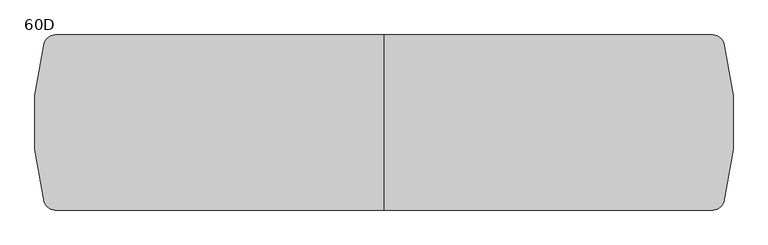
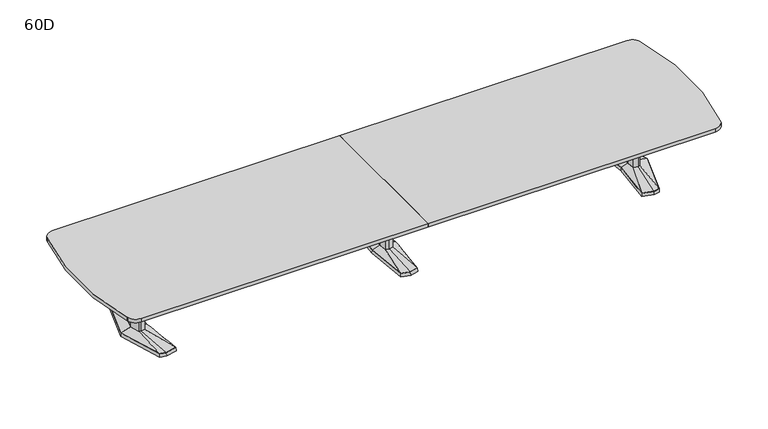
"""IFC4 building model written with IfcOpenShell, lengths in millimetres: furniture geometry, Coalesse_AM_Table_Conference_ETable2_SoftRadiused_20ft_AluminiumBase : 60D."""

import ifcopenshell
import ifcopenshell.guid

model = None  # the IFC model being written
_history = None  # IfcOwnerHistory: only IFC2X3 demands one
_inside = {}  # id of a spatial element -> (the spatial element, [elements in it])
_under = {}  # id of a project, library or spatial element -> (it, [spatial elements below it])
_declared = {}  # id of a project -> (the project, [libraries it declares])
_typed = {}  # id of a type object -> (the type object, [elements of that type])
_made_of = {}  # id of a material, layer set ... -> (it, [elements and type objects made of it])


def new_model(schema):
    """Start an empty IFC model of exactly this schema.

    Asked for "IFC4X3", IfcOpenShell would pick the latest addendum, in which some entities
    have other attributes; the version numbers below select the first issue.
    IFC2X3 requires an IfcOwnerHistory on every rooted entity: one is made here for all.
    """
    global model, _history
    if schema == "IFC4X3":
        model = ifcopenshell.file(schema_version=(4, 3, 0, 0))
    else:
        model = ifcopenshell.file(schema=schema)
    _inside.clear()
    _under.clear()
    _declared.clear()
    _typed.clear()
    _made_of.clear()
    _history = None
    if model.schema == "IFC2X3":
        org = make("IfcOrganization", Name="unknown")
        user = make(
            "IfcPersonAndOrganization",
            ThePerson=make("IfcPerson", FamilyName="unknown"),
            TheOrganization=org,
        )
        app = make(
            "IfcApplication",
            ApplicationDeveloper=org,
            Version="unknown",
            ApplicationFullName="unknown",
            ApplicationIdentifier="unknown",
        )
        _history = make(
            "IfcOwnerHistory",
            OwningUser=user,
            OwningApplication=app,
            ChangeAction="ADDED",
            CreationDate=0,
        )
    return model


def make(cls, **values):
    """One entity of the class cls with the attributes given. An attribute that is None is left unset."""
    return model.create_entity(
        cls, **{name: value for name, value in values.items() if value is not None}
    )


def rooted(cls, **values):
    """An entity with a GlobalId (a new one), such as an element, a storey or a relation."""
    return make(cls, GlobalId=ifcopenshell.guid.new(), OwnerHistory=_history, **values)


def si_unit(unit_type, name, prefix=None):
    """IfcSIUnit, for example si_unit("LENGTHUNIT", "METRE", prefix="MILLI")."""
    return make("IfcSIUnit", UnitType=unit_type, Prefix=prefix, Name=name)


def assignment(units):
    """IfcUnitAssignment: the units of a project."""
    return None if units is None else make("IfcUnitAssignment", Units=units)


def point(xyz):
    """IfcCartesianPoint."""
    return None if xyz is None else make("IfcCartesianPoint", Coordinates=xyz)


def direction(xyz):
    """IfcDirection."""
    return None if xyz is None else make("IfcDirection", DirectionRatios=xyz)


def frame(location, z_axis=None, x_axis=None):
    """IfcAxis2Placement3D, a coordinate frame: its origin and axes. An axis left out is left unset."""
    return make(
        "IfcAxis2Placement3D",
        Location=point(location),
        Axis=direction(z_axis),
        RefDirection=direction(x_axis),
    )


def frame_2d(location, x_axis=None):
    """IfcAxis2Placement2D, a coordinate frame in the plane: its origin and x axis."""
    return make(
        "IfcAxis2Placement2D", Location=point(location), RefDirection=direction(x_axis)
    )


def origin():
    """The frame at (0, 0, 0) with its axes left unset."""
    return frame((0.0, 0.0, 0.0))


def place(relative_to, where):
    """IfcLocalPlacement: puts the frame where relative to a parent placement (None: the world)."""
    return make(
        "IfcLocalPlacement", PlacementRelTo=relative_to, RelativePlacement=where
    )


def context(
    kind, dimensions, precision=None, world=None, true_north=None, identifier=None
):
    """IfcGeometricRepresentationContext, for example the 3D "Model" context."""
    return make(
        "IfcGeometricRepresentationContext",
        ContextIdentifier=identifier,
        ContextType=kind,
        CoordinateSpaceDimension=dimensions,
        Precision=precision,
        WorldCoordinateSystem=world,
        TrueNorth=true_north,
    )


def project(units=None, contexts=None):
    """IfcProject with its units and contexts."""
    return rooted(
        "IfcProject",
        Name="project",
        RepresentationContexts=contexts,
        UnitsInContext=assignment(units),
    )


def spatial(cls, under=None, at=None, **own):
    """A site, building, storey or space (cls), placed at a placement, below another one or the project."""
    s = rooted(cls, ObjectPlacement=at, **own)
    if under is not None:
        _under.setdefault(under.id(), (under, []))[1].append(s)
    return s


def polyline(points):
    """IfcPolyline through the points."""
    return make("IfcPolyline", Points=[point(p) for p in points])


def circle_curve(where, radius):
    """IfcCircle in the frame where."""
    return make("IfcCircle", Position=where, Radius=radius)


def trimmed(basis, trim1, trim2, sense, master):
    """IfcTrimmedCurve: the piece of a basis curve between two trims."""
    return make(
        "IfcTrimmedCurve",
        BasisCurve=basis,
        Trim1=trim1,
        Trim2=trim2,
        SenseAgreement=sense,
        MasterRepresentation=master,
    )


def segment(curve, same_sense, transition):
    """IfcCompositeCurveSegment."""
    return make(
        "IfcCompositeCurveSegment",
        Transition=transition,
        SameSense=same_sense,
        ParentCurve=curve,
    )


def composite_curve(segments, self_intersect=None):
    """IfcCompositeCurve: segments joined end to end."""
    return make("IfcCompositeCurve", Segments=segments, SelfIntersect=self_intersect)


def outline(outer, holes=None, kind="AREA"):
    """IfcArbitraryClosedProfileDef: a profile drawn as a closed curve; with holes, ...WithVoids."""
    if holes is None:
        return make("IfcArbitraryClosedProfileDef", ProfileType=kind, OuterCurve=outer)
    return make(
        "IfcArbitraryProfileDefWithVoids",
        ProfileType=kind,
        OuterCurve=outer,
        InnerCurves=holes,
    )


def extrude(swept, where, along, depth):
    """IfcExtrudedAreaSolid: the profile swept, set in the frame where, extruded along a direction by depth."""
    return make(
        "IfcExtrudedAreaSolid",
        SweptArea=swept,
        Position=where,
        ExtrudedDirection=direction(along),
        Depth=depth,
    )


def faces_of(points, faces, orient=None, outer=None):
    """IfcFace entities. A face is a list of loops; a loop is a list of indices into points, from 0.

    orient and outer hold one flag for each loop. By default every Orientation is true, the
    first loop of a face is its IfcFaceOuterBound and the others are IfcFaceBound.
    """
    made = []
    for i, loops in enumerate(faces):
        bounds = []
        for j, loop in enumerate(loops):
            is_outer = j == 0 if outer is None else outer[i][j]
            bounds.append(
                make(
                    "IfcFaceOuterBound" if is_outer else "IfcFaceBound",
                    Bound=make("IfcPolyLoop", Polygon=[points[k] for k in loop]),
                    Orientation=True if orient is None else orient[i][j],
                )
            )
        made.append(make("IfcFace", Bounds=bounds))
    return made


def faceted_brep(points, faces, orient=None, outer=None, voids=None):
    """IfcFacetedBrep: a solid bounded by flat faces; with voids (closed shells), ...WithVoids."""
    shared = [point(p) for p in points]
    hull = make("IfcClosedShell", CfsFaces=faces_of(shared, faces, orient, outer))
    if voids is None:
        return make("IfcFacetedBrep", Outer=hull)
    return make(
        "IfcFacetedBrepWithVoids",
        Outer=hull,
        Voids=[
            make(cls, CfsFaces=faces_of(shared, fs, o, b)) for cls, fs, o, b in voids
        ],
    )


def shape(context_of_items, identifier, shape_type, items):
    """IfcShapeRepresentation: the items that make up one representation, for example the "Body"."""
    return make(
        "IfcShapeRepresentation",
        ContextOfItems=context_of_items,
        RepresentationIdentifier=identifier,
        RepresentationType=shape_type,
        Items=items,
    )


def source(mapping_origin, context_of_items, identifier, shape_type, items):
    """IfcRepresentationMap: a shape defined once, which mapped items show again and again."""
    return make(
        "IfcRepresentationMap",
        MappingOrigin=mapping_origin,
        MappedRepresentation=shape(context_of_items, identifier, shape_type, items),
    )


def transform(
    local_origin,
    x_axis=None,
    y_axis=None,
    z_axis=None,
    scale=None,
    scale2=None,
    scale3=None,
    uniform=True,
):
    """IfcCartesianTransformationOperator3D, or its non-uniform kind. x_axis, y_axis, z_axis: its Axis1, 2, 3."""
    if uniform:
        return make(
            "IfcCartesianTransformationOperator3D",
            Axis1=direction(x_axis),
            Axis2=direction(y_axis),
            LocalOrigin=point(local_origin),
            Scale=scale,
            Axis3=direction(z_axis),
        )
    return make(
        "IfcCartesianTransformationOperator3DnonUniform",
        Axis1=direction(x_axis),
        Axis2=direction(y_axis),
        LocalOrigin=point(local_origin),
        Scale=scale,
        Axis3=direction(z_axis),
        Scale2=scale2,
        Scale3=scale3,
    )


def mapped(mapping_source, mapping_target):
    """IfcMappedItem: shows the shape of a source again, moved by a transform."""
    return make(
        "IfcMappedItem", MappingSource=mapping_source, MappingTarget=mapping_target
    )


def made_of(thing, what):
    """Note that an element or type object is made of a material, layer set ...; save() writes the relation."""
    if what is not None:
        _made_of.setdefault(what.id(), (what, []))[1].append(thing)
    return thing


def element(
    cls,
    number,
    at=None,
    inside=None,
    cuts=None,
    type_object=None,
    material=None,
    context=None,
    identifier="Body",
    shape_type=None,
    held_by="IfcProductDefinitionShape",
    body=None,
    shapes=None,
    **own,
):
    """One element of the class cls, such as IfcWall. Its Tag is "e" and its number.

    at: its placement. inside: the storey or other place that contains it. cuts: it is an
    opening in that element (IfcRelVoidsElement). A single representation is given by context,
    identifier, shape_type and body (its items); several are given by shapes. held_by: the class
    of the entity that holds the representations. save() writes the other relations.
    """
    e = rooted(cls, Tag="e%d" % number, ObjectPlacement=at, **own)
    if body is not None:
        shapes = [shape(context, identifier, shape_type, body)]
    if shapes is not None:
        e.Representation = make(held_by, Representations=shapes)
    if inside is not None:
        _inside.setdefault(inside.id(), (inside, []))[1].append(e)
    if cuts is not None:
        rooted(
            "IfcRelVoidsElement", RelatingBuildingElement=cuts, RelatedOpeningElement=e
        )
    if type_object is not None:
        _typed.setdefault(type_object.id(), (type_object, []))[1].append(e)
    return made_of(e, material)


def aggregate(whole, parts):
    """IfcRelAggregates: a whole, such as a stair, and the parts it consists of."""
    return rooted("IfcRelAggregates", RelatingObject=whole, RelatedObjects=parts)


def save(model, path):
    """Write the relations noted so far, then the file.

    IfcRelAggregates (storeys below a building ...), IfcRelContainedInSpatialStructure (elements
    in a storey), IfcRelDefinesByType, IfcRelAssociatesMaterial and IfcRelDeclares: one each for
    every whole, place, type object, material and project.
    """
    for whole, parts in _under.values():
        aggregate(whole, parts)
    for where, things in _inside.values():
        rooted(
            "IfcRelContainedInSpatialStructure",
            RelatedElements=things,
            RelatingStructure=where,
        )
    for kind, things in _typed.values():
        rooted("IfcRelDefinesByType", RelatedObjects=things, RelatingType=kind)
    for what, things in _made_of.values():
        rooted("IfcRelAssociatesMaterial", RelatedObjects=things, RelatingMaterial=what)
    for by, libraries in _declared.values():
        rooted("IfcRelDeclares", RelatingContext=by, RelatedDefinitions=libraries)
    model.write(path)


def plane_surface(at):
    """IfcPlane: the flat surface through the origin of the frame at, square to its z axis."""
    return make("IfcPlane", Position=at)


def spline_surface(u_degree, v_degree, points, u_multiplicities, v_multiplicities, u_knots, v_knots, weights=None):
    """IfcBSplineSurfaceWithKnots; with weights, IfcRationalBSplineSurfaceWithKnots. points: one row for each step in u."""
    own = dict(
        UDegree=u_degree,
        VDegree=v_degree,
        ControlPointsList=[[point(p) for p in row] for row in points],
        SurfaceForm="UNSPECIFIED",
        UClosed=False,
        VClosed=False,
        SelfIntersect=False,
        UMultiplicities=u_multiplicities,
        VMultiplicities=v_multiplicities,
        UKnots=u_knots,
        VKnots=v_knots,
        KnotSpec="UNSPECIFIED",
    )
    if weights is None:
        return make("IfcBSplineSurfaceWithKnots", **own)
    return make("IfcRationalBSplineSurfaceWithKnots", WeightsData=weights, **own)


def advanced_brep(points, edges, surfaces, faces):
    """IfcAdvancedBrep: a solid bounded by faces that lie on surfaces and meet in shared edges.

    An edge is (start, end): straight between two places in points (the first is 0);
    or (start, end, curve); or (start, end, curve, False) where it runs against its curve.
    A face is (place in surfaces, loops), or (place, loops, False) where it looks against
    its surface's normal. A loop lists edges by number (the first is 1), with a minus sign
    where the edge is run from its end to its start. The first loop is the outer one.
    """
    corners = [point(p) for p in points]
    vertices = [make("IfcVertexPoint", VertexGeometry=c) for c in corners]
    made = []
    for start, end, *more in edges:
        made.append(
            make(
                "IfcEdgeCurve",
                EdgeStart=vertices[start],
                EdgeEnd=vertices[end],
                EdgeGeometry=more[0] if more else make("IfcPolyline", Points=[corners[start], corners[end]]),
                SameSense=more[1] if len(more) > 1 else True,
            )
        )
    hull = []
    for where, loops, *sense in faces:
        bounds = []
        for j, loop in enumerate(loops):
            ring = [make("IfcOrientedEdge", EdgeElement=made[abs(k) - 1], Orientation=k > 0) for k in loop]
            bounds.append(
                make(
                    "IfcFaceOuterBound" if j == 0 else "IfcFaceBound",
                    Bound=make("IfcEdgeLoop", EdgeList=ring),
                    Orientation=True,
                )
            )
        hull.append(make("IfcAdvancedFace", Bounds=bounds, FaceSurface=surfaces[where], SameSense=sense[0] if sense else True))
    return make("IfcAdvancedBrep", Outer=make("IfcClosedShell", CfsFaces=hull))


def furniture_60d_c19a4f9d(model_context):
    return source(origin(), model_context, "Body", "SolidModel", [
        faceted_brep([(-81.2333791, -433.8053819, 38.1), (0.0, -455.556576, 38.1), (81.2333791, -433.8053819, 38.1), (119.0564774, 0.0, 38.1), (81.2333791, 433.8053819, 38.1), (0.0, 455.556576, 38.1), (-81.2333791, 433.8053819, 38.1), (-119.0564774, 0.0, 38.1), (-82.7182795, -435.0512063, 3.175), (-120.65, 0.0, 3.175), (-82.7182795, 435.0512063, 3.175), (0.0, 457.2, 3.175), (82.7182795, 435.0512063, 3.175), (120.65, 0.0, 3.175), (82.7182795, -435.0512063, 3.175), (0.0, -457.2, 3.175), (0.0, 429.2617927, 3.175), (-77.9676806, 408.3850278, 3.175), (-74.7019821, 382.9646737, 3.175), (0.0, 402.9670094, 3.175), (74.7019821, 382.9646737, 3.175), (77.9676806, 408.3850278, 3.175), (0.0, -429.2617927, 3.175), (77.9676806, -408.3850278, 3.175), (74.7019821, -382.9646737, 3.175), (0.0, -402.9670094, 3.175), (-74.7019821, -382.9646737, 3.175), (-77.9676806, -408.3850278, 3.175), (-71.8574262, 114.6326257, 3.175), (-82.5426076, 0.0, 3.175), (-71.8574262, -114.6326257, 3.175), (0.0, -133.8761372, 3.175), (71.8574262, -114.6326257, 3.175), (82.5426076, 0.0, 3.175), (71.8574262, 114.6326257, 3.175), (0.0, 133.8761372, 3.175), (0.0, 429.2617927, 0.0), (77.9676806, 408.3850278, 0.0), (74.7019821, 382.9646737, 0.0), (0.0, 402.9670094, 0.0), (-74.7019821, 382.9646737, 0.0), (-77.9676806, 408.3850278, 0.0), (0.0, -429.2617927, 0.0), (-77.9676806, -408.3850278, 0.0), (-74.7019821, -382.9646737, 0.0), (0.0, -402.9670094, 0.0), (74.7019821, -382.9646737, 0.0), (77.9676806, -408.3850278, 0.0), (-71.8574262, 114.6326257, 0.0), (0.0, 133.8761372, 0.0), (71.8574262, 114.6326257, 0.0), (82.5426076, 0.0, 0.0), (71.8574262, -114.6326257, 0.0), (0.0, -133.8761372, 0.0), (-71.8574262, -114.6326257, 0.0), (-82.5426076, 0.0, 0.0)], [[[0, 1, 2, 3, 4, 5, 6, 7]], [[8, 9, 10, 11, 12, 13, 14, 15], [16, 17, 18, 19, 20, 21], [22, 23, 24, 25, 26, 27], [28, 29, 30, 31, 32, 33, 34, 35]], [[1, 0, 8, 15]], [[2, 1, 15, 14]], [[3, 2, 14, 13]], [[4, 3, 13, 12]], [[5, 4, 12, 11]], [[6, 5, 11, 10]], [[7, 6, 10, 9]], [[0, 7, 9, 8]], [[36, 37, 38, 39, 40, 41]], [[42, 43, 44, 45, 46, 47]], [[48, 49, 50, 51, 52, 53, 54, 55]], [[36, 41, 17, 16]], [[41, 40, 18, 17]], [[40, 39, 19, 18]], [[39, 38, 20, 19]], [[38, 37, 21, 20]], [[37, 36, 16, 21]], [[42, 47, 23, 22]], [[47, 46, 24, 23]], [[46, 45, 25, 24]], [[45, 44, 26, 25]], [[44, 43, 27, 26]], [[43, 42, 22, 27]], [[48, 55, 29, 28]], [[55, 54, 30, 29]], [[54, 53, 31, 30]], [[53, 52, 32, 31]], [[52, 51, 33, 32]], [[51, 50, 34, 33]], [[50, 49, 35, 34]], [[49, 48, 28, 35]]]),
        faceted_brep([(-36.3832834, 84.6900825, 698.5), (-44.2774487, 0.0, 698.5), (-36.3832834, -84.6900825, 698.5), (0.0, -94.4335728, 698.5), (36.3832834, -84.6900825, 698.5), (44.2774487, 0.0, 698.5), (36.3832834, 84.6900825, 698.5), (0.0, 94.4335728, 698.5), (-36.3832834, 84.6900825, 63.5), (0.0, 94.4335728, 63.5), (36.3832834, 84.6900825, 63.5), (44.2774487, 0.0, 63.5), (36.3832834, -84.6900825, 63.5), (0.0, -94.4335728, 63.5), (-36.3832834, -84.6900825, 63.5), (-44.2774487, 0.0, 63.5)], [[[0, 1, 2, 3, 4, 5, 6, 7]], [[8, 9, 10, 11, 12, 13, 14, 15]], [[1, 0, 8, 15]], [[2, 1, 15, 14]], [[3, 2, 14, 13]], [[4, 3, 13, 12]], [[5, 4, 12, 11]], [[6, 5, 11, 10]], [[7, 6, 10, 9]], [[0, 7, 9, 8]]]),
        advanced_brep(
        [(-36.3832834, 84.6900825, 63.5), (-44.2774487, 0.0, 63.5), (-36.3832834, -84.6900825, 63.5), (0.0, -94.4335728, 63.5), (36.3832834, -84.6900825, 63.5), (44.2774487, 0.0, 63.5), (36.3832834, 84.6900825, 63.5), (0.0, 94.4335728, 63.5), (-81.2333791, 433.8053819, 38.1), (0.0, 455.556576, 38.1), (81.2333791, 433.8053819, 38.1), (119.0564774, 0.0, 38.1), (81.2333791, -433.8053819, 38.1), (0.0, -455.556576, 38.1), (-81.2333791, -433.8053819, 38.1), (-119.0564774, 0.0, 38.1)],
        [
            (0, 1),
            (1, 2),
            (2, 3),
            (3, 4),
            (4, 5),
            (5, 6),
            (6, 7),
            (7, 0),
            (8, 9),
            (9, 10),
            (10, 11),
            (11, 12),
            (12, 13),
            (13, 14),
            (14, 15),
            (15, 8),
            (15, 1),
            (0, 8),
            (14, 2),
            (13, 3),
            (12, 4),
            (11, 5),
            (10, 6),
            (9, 7),
        ],
        [
            plane_surface(frame((0.0, 0.0, 63.5), z_axis=(0.0, 0.0, 1.0000000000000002), x_axis=(-0.9659615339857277, -0.25868574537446, 0.0))),
            plane_surface(frame((0.0, 0.0, 38.1), z_axis=(0.0, 0.0, -1.0000000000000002), x_axis=(-0.9659615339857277, -0.25868574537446, 0.0))),
            spline_surface(1, 1, [[(-81.2333791, 433.8053819, 38.1), (-36.3832834, 84.6900825, 63.5)], [(-119.0564774, 0.0, 38.1), (-44.2774487, 0.0, 63.5)]], [2, 2], [2, 2], [0.0, 1.0], [0.0, 1.0]),
            spline_surface(1, 1, [[(-119.0564774, 0.0, 38.1), (-44.2774487, 0.0, 63.5)], [(-81.2333791, -433.8053819, 38.1), (-36.3832834, -84.6900825, 63.5)]], [2, 2], [2, 2], [0.0, 1.0], [0.0, 1.0]),
            spline_surface(1, 1, [[(-81.2333791, -433.8053819, 38.1), (-36.3832834, -84.6900825, 63.5)], [(0.0, -455.556576, 38.1), (0.0, -94.4335728, 63.5)]], [2, 2], [2, 2], [0.0, 1.0], [0.0, 1.0]),
            spline_surface(1, 1, [[(0.0, -455.556576, 38.1), (0.0, -94.4335728, 63.5)], [(81.2333791, -433.8053819, 38.1), (36.3832834, -84.6900825, 63.5)]], [2, 2], [2, 2], [0.0, 1.0], [0.0, 1.0]),
            spline_surface(1, 1, [[(81.2333791, -433.8053819, 38.1), (36.3832834, -84.6900825, 63.5)], [(119.0564774, 0.0, 38.1), (44.2774487, 0.0, 63.5)]], [2, 2], [2, 2], [0.0, 1.0], [0.0, 1.0]),
            spline_surface(1, 1, [[(119.0564774, 0.0, 38.1), (44.2774487, 0.0, 63.5)], [(81.2333791, 433.8053819, 38.1), (36.3832834, 84.6900825, 63.5)]], [2, 2], [2, 2], [0.0, 1.0], [0.0, 1.0]),
            spline_surface(1, 1, [[(81.2333791, 433.8053819, 38.1), (36.3832834, 84.6900825, 63.5)], [(0.0, 455.556576, 38.1), (0.0, 94.4335728, 63.5)]], [2, 2], [2, 2], [0.0, 1.0], [0.0, 1.0]),
            spline_surface(1, 1, [[(0.0, 455.556576, 38.1), (0.0, 94.4335728, 63.5)], [(-81.2333791, 433.8053819, 38.1), (-36.3832834, 84.6900825, 63.5)]], [2, 2], [2, 2], [0.0, 1.0], [0.0, 1.0]),
        ],
        [
            (0, [[1, 2, 3, 4, 5, 6, 7, 8]]),
            (1, [[9, 10, 11, 12, 13, 14, 15, 16]]),
            (2, [[-16, 17, -1, 18]]),
            (3, [[-15, 19, -2, -17]]),
            (4, [[-14, 20, -3, -19]]),
            (5, [[-13, 21, -4, -20]]),
            (6, [[-12, 22, -5, -21]]),
            (7, [[-11, 23, -6, -22]]),
            (8, [[-10, 24, -7, -23]]),
            (9, [[-9, -18, -8, -24]]),
        ],
    ),
        faceted_brep([(2429.8306835, 455.5848221, 38.1), (2320.2531277, 426.2263816, 38.1), (2361.4163717, 0.0, 38.1), (2320.2531277, -426.2263816, 38.1), (2429.8306835, -455.5848221, 38.1), (2485.9570396, -440.5478297, 38.1), (2623.2684269, 0.0, 38.1), (2485.9570396, 440.5478297, 38.1), (2429.8306754, 457.2283104, 3.175), (2487.2124472, 441.8549756, 3.175), (2624.93125, 0.0, 3.175), (2487.2124472, -441.8549756, 3.175), (2429.8306754, -457.2283104, 3.175), (2318.54375, -427.4118891, 3.175), (2359.8214856, 0.0, 3.175), (2318.54375, 427.4118891, 3.175), (2433.420115, 428.3273875, 3.175), (2328.3718228, 402.1057253, 3.175), (2336.490518, 377.985069, 3.175), (2437.0095466, 401.0699529, 3.175), (2487.5691725, 387.524361, 3.175), (2486.7631061, 414.0360954, 3.175), (2433.420115, -428.3273875, 3.175), (2486.7631061, -414.0360954, 3.175), (2487.5691725, -387.524361, 3.175), (2437.0095466, -401.0699529, 3.175), (2336.490518, -377.985069, 3.175), (2328.3718228, -402.1057253, 3.175), (2560.0153621, 0.0, 3.175), (2527.7459611, 120.4193755, 3.175), (2479.0987222, 133.471665, 3.175), (2399.2180526, 119.4176561, 3.175), (2388.0868466, 0.0, 3.175), (2399.2180526, -119.4176561, 3.175), (2479.0987222, -133.471665, 3.175), (2527.7459611, -120.4193755, 3.175), (2433.420115, 428.3273875, 0.0), (2486.7631061, 414.0360954, 0.0), (2487.5691725, 387.524361, 0.0), (2437.0095466, 401.0699529, 0.0), (2336.490518, 377.985069, 0.0), (2328.3718228, 402.1057253, 0.0), (2433.420115, -428.3273875, 0.0), (2328.3718228, -402.1057253, 0.0), (2336.490518, -377.985069, 0.0), (2437.0095466, -401.0699529, 0.0), (2487.5691725, -387.524361, 0.0), (2486.7631061, -414.0360954, 0.0), (2560.0153621, 0.0, 0.0), (2527.7459611, -120.4193755, 0.0), (2479.0987222, -133.471665, 0.0), (2399.2180526, -119.4176561, 0.0), (2388.0868466, 0.0, 0.0), (2399.2180526, 119.4176561, 0.0), (2479.0987222, 133.471665, 0.0), (2527.7459611, 120.4193755, 0.0)], [[[0, 1, 2, 3, 4, 5, 6, 7]], [[8, 9, 10, 11, 12, 13, 14, 15], [16, 17, 18, 19, 20, 21], [22, 23, 24, 25, 26, 27], [28, 29, 30, 31, 32, 33, 34, 35]], [[7, 9, 8, 0]], [[6, 10, 9, 7]], [[5, 11, 10, 6]], [[4, 12, 11, 5]], [[3, 13, 12, 4]], [[2, 14, 13, 3]], [[1, 15, 14, 2]], [[0, 8, 15, 1]], [[36, 37, 38, 39, 40, 41]], [[42, 43, 44, 45, 46, 47]], [[48, 49, 50, 51, 52, 53, 54, 55]], [[36, 16, 21, 37]], [[37, 21, 20, 38]], [[38, 20, 19, 39]], [[39, 19, 18, 40]], [[40, 18, 17, 41]], [[41, 17, 16, 36]], [[42, 22, 27, 43]], [[43, 27, 26, 44]], [[44, 26, 25, 45]], [[45, 25, 24, 46]], [[46, 24, 23, 47]], [[47, 23, 22, 42]], [[48, 28, 35, 49]], [[49, 35, 34, 50]], [[50, 34, 33, 51]], [[51, 33, 32, 52]], [[52, 32, 31, 53]], [[53, 31, 30, 54]], [[54, 30, 29, 55]], [[55, 29, 28, 48]]]),
        faceted_brep([(2520.5710836, 0.0, 698.5), (2496.6358546, 89.3188359, 698.5), (2479.7824984, 93.8406728, 698.5), (2477.3826511, 94.4845635, 698.5), (2434.455146, 86.9320037, 698.5), (2426.3520056, 0.0, 698.5), (2434.455146, -86.9320037, 698.5), (2477.3826511, -94.4845635, 698.5), (2479.7824984, -93.8406728, 698.5), (2496.6358546, -89.3188359, 698.5), (2520.5710836, 0.0, 63.5), (2496.6358546, -89.3188359, 63.5), (2479.7824984, -93.8406728, 63.5), (2477.3826511, -94.4845635, 63.5), (2434.455146, -86.9320037, 63.5), (2426.3520056, 0.0, 63.5), (2434.455146, 86.9320037, 63.5), (2477.3826511, 94.4845635, 63.5), (2479.7824984, 93.8406728, 63.5), (2496.6358546, 89.3188359, 63.5)], [[[0, 1, 2, 3, 4, 5, 6, 7, 8, 9]], [[10, 11, 12, 13, 14, 15, 16, 17, 18, 19]], [[9, 11, 10, 0]], [[8, 12, 11, 9]], [[7, 13, 12, 8]], [[6, 14, 13, 7]], [[5, 15, 14, 6]], [[4, 16, 15, 5]], [[3, 17, 16, 4]], [[2, 18, 17, 3]], [[1, 19, 18, 2]], [[0, 10, 19, 1]]]),
        advanced_brep(
        [(2477.3826511, 94.4845635, 63.5), (2434.455146, 86.9320037, 63.5), (2426.3520056, 0.0, 63.5), (2434.455146, -86.9320037, 63.5), (2477.3826511, -94.4845635, 63.5), (2496.6358546, -89.3188359, 63.5), (2520.5710836, 0.0, 63.5), (2496.6358546, 89.3188359, 63.5), (2429.8306835, 455.5848221, 38.1), (2485.9570396, 440.5478297, 38.1), (2623.2684269, 0.0, 38.1), (2485.9570396, -440.5478297, 38.1), (2429.8306835, -455.5848221, 38.1), (2320.2531277, -426.2263816, 38.1), (2361.4163717, 0.0, 38.1), (2320.2531277, 426.2263816, 38.1)],
        [
            (0, 1),
            (1, 2),
            (2, 3),
            (3, 4),
            (4, 5),
            (5, 6),
            (6, 7),
            (7, 0),
            (8, 9),
            (9, 10),
            (10, 11),
            (11, 12),
            (12, 13),
            (13, 14),
            (14, 15),
            (15, 8),
            (8, 0),
            (7, 9),
            (6, 10),
            (5, 11),
            (4, 12),
            (3, 13),
            (2, 14),
            (1, 15),
        ],
        [
            plane_surface(frame((2470.4837991, 0.0, 63.5), z_axis=(0.0, 0.0, 1.0), x_axis=(-0.25884244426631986, -0.9659195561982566, 0.0))),
            plane_surface(frame((2432.0958125, 0.0, 38.1), z_axis=(0.0, 0.0, -1.0), x_axis=(-0.25884244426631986, -0.9659195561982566, 0.0))),
            spline_surface(1, 1, [[(2429.8306835, 455.5848221, 38.1), (2485.9570396, 440.5478297, 38.1)], [(2477.3826511, 94.4845635, 63.5), (2496.6358546, 89.3188359, 63.5)]], [2, 2], [2, 2], [0.0, 1.0], [0.0, 1.0]),
            spline_surface(1, 1, [[(2485.9570396, 440.5478297, 38.1), (2623.2684269, 0.0, 38.1)], [(2496.6358546, 89.3188359, 63.5), (2520.5710836, 0.0, 63.5)]], [2, 2], [2, 2], [0.0, 1.0], [0.0, 1.0]),
            spline_surface(1, 1, [[(2623.2684269, 0.0, 38.1), (2485.9570396, -440.5478297, 38.1)], [(2520.5710836, 0.0, 63.5), (2496.6358546, -89.3188359, 63.5)]], [2, 2], [2, 2], [0.0, 1.0], [0.0, 1.0]),
            spline_surface(1, 1, [[(2485.9570396, -440.5478297, 38.1), (2429.8306835, -455.5848221, 38.1)], [(2496.6358546, -89.3188359, 63.5), (2477.3826511, -94.4845635, 63.5)]], [2, 2], [2, 2], [0.0, 1.0], [0.0, 1.0]),
            spline_surface(1, 1, [[(2429.8306835, -455.5848221, 38.1), (2320.2531277, -426.2263816, 38.1)], [(2477.3826511, -94.4845635, 63.5), (2434.455146, -86.9320037, 63.5)]], [2, 2], [2, 2], [0.0, 1.0], [0.0, 1.0]),
            spline_surface(1, 1, [[(2320.2531277, -426.2263816, 38.1), (2361.4163717, 0.0, 38.1)], [(2434.455146, -86.9320037, 63.5), (2426.3520056, 0.0, 63.5)]], [2, 2], [2, 2], [0.0, 1.0], [0.0, 1.0]),
            spline_surface(1, 1, [[(2361.4163717, 0.0, 38.1), (2320.2531277, 426.2263816, 38.1)], [(2426.3520056, 0.0, 63.5), (2434.455146, 86.9320037, 63.5)]], [2, 2], [2, 2], [0.0, 1.0], [0.0, 1.0]),
            spline_surface(1, 1, [[(2320.2531277, 426.2263816, 38.1), (2429.8306835, 455.5848221, 38.1)], [(2434.455146, 86.9320037, 63.5), (2477.3826511, 94.4845635, 63.5)]], [2, 2], [2, 2], [0.0, 1.0], [0.0, 1.0]),
        ],
        [
            (0, [[1, 2, 3, 4, 5, 6, 7, 8]]),
            (1, [[9, 10, 11, 12, 13, 14, 15, 16]]),
            (2, [[17, -8, 18, -9]]),
            (3, [[-18, -7, 19, -10]]),
            (4, [[-19, -6, 20, -11]]),
            (5, [[-20, -5, 21, -12]]),
            (6, [[-21, -4, 22, -13]]),
            (7, [[-22, -3, 23, -14]]),
            (8, [[-23, -2, 24, -15]]),
            (9, [[-24, -1, -17, -16]]),
        ],
    ),
        faceted_brep([(-2429.8306835, 455.5848221, 38.1), (-2485.9570396, 440.5478297, 38.1), (-2623.2684269, 0.0, 38.1), (-2485.9570396, -440.5478297, 38.1), (-2429.8306835, -455.5848221, 38.1), (-2320.2531277, -426.2263816, 38.1), (-2361.4163717, 0.0, 38.1), (-2320.2531277, 426.2263816, 38.1), (-2429.8306754, 457.2283104, 3.175), (-2318.54375, 427.4118891, 3.175), (-2359.8214856, 0.0, 3.175), (-2318.54375, -427.4118891, 3.175), (-2429.8306754, -457.2283104, 3.175), (-2487.2124472, -441.8549756, 3.175), (-2624.93125, 0.0, 3.175), (-2487.2124472, 441.8549756, 3.175), (-2433.420115, 428.3273875, 3.175), (-2486.7631061, 414.0360954, 3.175), (-2487.5691725, 387.524361, 3.175), (-2437.0095466, 401.0699529, 3.175), (-2336.490518, 377.985069, 3.175), (-2328.3718228, 402.1057253, 3.175), (-2433.420115, -428.3273875, 3.175), (-2328.3718228, -402.1057253, 3.175), (-2336.490518, -377.985069, 3.175), (-2437.0095466, -401.0699529, 3.175), (-2487.5691725, -387.524361, 3.175), (-2486.7631061, -414.0360954, 3.175), (-2560.0153621, 0.0, 3.175), (-2527.7459611, -120.4193755, 3.175), (-2479.0987222, -133.471665, 3.175), (-2399.2180526, -119.4176561, 3.175), (-2388.0868466, 0.0, 3.175), (-2399.2180526, 119.4176561, 3.175), (-2479.0987222, 133.471665, 3.175), (-2527.7459611, 120.4193755, 3.175), (-2433.420115, 428.3273875, 0.0), (-2328.3718228, 402.1057253, 0.0), (-2336.490518, 377.985069, 0.0), (-2437.0095466, 401.0699529, 0.0), (-2487.5691725, 387.524361, 0.0), (-2486.7631061, 414.0360954, 0.0), (-2433.420115, -428.3273875, 0.0), (-2486.7631061, -414.0360954, 0.0), (-2487.5691725, -387.524361, 0.0), (-2437.0095466, -401.0699529, 0.0), (-2336.490518, -377.985069, 0.0), (-2328.3718228, -402.1057253, 0.0), (-2560.0153621, 0.0, 0.0), (-2527.7459611, 120.4193755, 0.0), (-2479.0987222, 133.471665, 0.0), (-2399.2180526, 119.4176561, 0.0), (-2388.0868466, 0.0, 0.0), (-2399.2180526, -119.4176561, 0.0), (-2479.0987222, -133.471665, 0.0), (-2527.7459611, -120.4193755, 0.0)], [[[0, 1, 2, 3, 4, 5, 6, 7]], [[8, 9, 10, 11, 12, 13, 14, 15], [16, 17, 18, 19, 20, 21], [22, 23, 24, 25, 26, 27], [28, 29, 30, 31, 32, 33, 34, 35]], [[1, 0, 8, 15]], [[2, 1, 15, 14]], [[3, 2, 14, 13]], [[4, 3, 13, 12]], [[5, 4, 12, 11]], [[6, 5, 11, 10]], [[7, 6, 10, 9]], [[0, 7, 9, 8]], [[36, 37, 38, 39, 40, 41]], [[42, 43, 44, 45, 46, 47]], [[48, 49, 50, 51, 52, 53, 54, 55]], [[36, 41, 17, 16]], [[41, 40, 18, 17]], [[40, 39, 19, 18]], [[39, 38, 20, 19]], [[38, 37, 21, 20]], [[37, 36, 16, 21]], [[42, 47, 23, 22]], [[47, 46, 24, 23]], [[46, 45, 25, 24]], [[45, 44, 26, 25]], [[44, 43, 27, 26]], [[43, 42, 22, 27]], [[48, 55, 29, 28]], [[55, 54, 30, 29]], [[54, 53, 31, 30]], [[53, 52, 32, 31]], [[52, 51, 33, 32]], [[51, 50, 34, 33]], [[50, 49, 35, 34]], [[49, 48, 28, 35]]]),
        faceted_brep([(-2520.5710836, 0.0, 698.5), (-2496.6358546, -89.3188359, 698.5), (-2479.7824984, -93.8406728, 698.5), (-2477.3826511, -94.4845635, 698.5), (-2434.455146, -86.9320037, 698.5), (-2426.3520056, 0.0, 698.5), (-2434.455146, 86.9320037, 698.5), (-2477.3826511, 94.4845635, 698.5), (-2479.7824984, 93.8406728, 698.5), (-2496.6358546, 89.3188359, 698.5), (-2520.5710836, 0.0, 63.5), (-2496.6358546, 89.3188359, 63.5), (-2479.7824984, 93.8406728, 63.5), (-2477.3826511, 94.4845635, 63.5), (-2434.455146, 86.9320037, 63.5), (-2426.3520056, 0.0, 63.5), (-2434.455146, -86.9320037, 63.5), (-2477.3826511, -94.4845635, 63.5), (-2479.7824984, -93.8406728, 63.5), (-2496.6358546, -89.3188359, 63.5)], [[[0, 1, 2, 3, 4, 5, 6, 7, 8, 9]], [[10, 11, 12, 13, 14, 15, 16, 17, 18, 19]], [[1, 0, 10, 19]], [[2, 1, 19, 18]], [[3, 2, 18, 17]], [[4, 3, 17, 16]], [[5, 4, 16, 15]], [[6, 5, 15, 14]], [[7, 6, 14, 13]], [[8, 7, 13, 12]], [[9, 8, 12, 11]], [[0, 9, 11, 10]]]),
        advanced_brep(
        [(-2477.3826511, 94.4845635, 63.5), (-2496.6358546, 89.3188359, 63.5), (-2520.5710836, 0.0, 63.5), (-2496.6358546, -89.3188359, 63.5), (-2477.3826511, -94.4845635, 63.5), (-2434.455146, -86.9320037, 63.5), (-2426.3520056, 0.0, 63.5), (-2434.455146, 86.9320037, 63.5), (-2429.8306835, 455.5848221, 38.1), (-2320.2531277, 426.2263816, 38.1), (-2361.4163717, 0.0, 38.1), (-2320.2531277, -426.2263816, 38.1), (-2429.8306835, -455.5848221, 38.1), (-2485.9570396, -440.5478297, 38.1), (-2623.2684269, 0.0, 38.1), (-2485.9570396, 440.5478297, 38.1)],
        [
            (0, 1),
            (1, 2),
            (2, 3),
            (3, 4),
            (4, 5),
            (5, 6),
            (6, 7),
            (7, 0),
            (8, 9),
            (9, 10),
            (10, 11),
            (11, 12),
            (12, 13),
            (13, 14),
            (14, 15),
            (15, 8),
            (15, 1),
            (0, 8),
            (14, 2),
            (13, 3),
            (12, 4),
            (11, 5),
            (10, 6),
            (9, 7),
        ],
        [
            plane_surface(frame((-2470.4837991, 0.0, 63.5), z_axis=(0.0, 0.0, 1.0), x_axis=(0.25884244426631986, -0.9659195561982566, 0.0))),
            plane_surface(frame((-2432.0958125, 0.0, 38.1), z_axis=(0.0, 0.0, -1.0), x_axis=(0.25884244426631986, -0.9659195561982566, 0.0))),
            spline_surface(1, 1, [[(-2429.8306835, 455.5848221, 38.1), (-2477.3826511, 94.4845635, 63.5)], [(-2485.9570396, 440.5478297, 38.1), (-2496.6358546, 89.3188359, 63.5)]], [2, 2], [2, 2], [0.0, 1.0], [0.0, 1.0]),
            spline_surface(1, 1, [[(-2485.9570396, 440.5478297, 38.1), (-2496.6358546, 89.3188359, 63.5)], [(-2623.2684269, 0.0, 38.1), (-2520.5710836, 0.0, 63.5)]], [2, 2], [2, 2], [0.0, 1.0], [0.0, 1.0]),
            spline_surface(1, 1, [[(-2623.2684269, 0.0, 38.1), (-2520.5710836, 0.0, 63.5)], [(-2485.9570396, -440.5478297, 38.1), (-2496.6358546, -89.3188359, 63.5)]], [2, 2], [2, 2], [0.0, 1.0], [0.0, 1.0]),
            spline_surface(1, 1, [[(-2485.9570396, -440.5478297, 38.1), (-2496.6358546, -89.3188359, 63.5)], [(-2429.8306835, -455.5848221, 38.1), (-2477.3826511, -94.4845635, 63.5)]], [2, 2], [2, 2], [0.0, 1.0], [0.0, 1.0]),
            spline_surface(1, 1, [[(-2429.8306835, -455.5848221, 38.1), (-2477.3826511, -94.4845635, 63.5)], [(-2320.2531277, -426.2263816, 38.1), (-2434.455146, -86.9320037, 63.5)]], [2, 2], [2, 2], [0.0, 1.0], [0.0, 1.0]),
            spline_surface(1, 1, [[(-2320.2531277, -426.2263816, 38.1), (-2434.455146, -86.9320037, 63.5)], [(-2361.4163717, 0.0, 38.1), (-2426.3520056, 0.0, 63.5)]], [2, 2], [2, 2], [0.0, 1.0], [0.0, 1.0]),
            spline_surface(1, 1, [[(-2361.4163717, 0.0, 38.1), (-2426.3520056, 0.0, 63.5)], [(-2320.2531277, 426.2263816, 38.1), (-2434.455146, 86.9320037, 63.5)]], [2, 2], [2, 2], [0.0, 1.0], [0.0, 1.0]),
            spline_surface(1, 1, [[(-2320.2531277, 426.2263816, 38.1), (-2434.455146, 86.9320037, 63.5)], [(-2429.8306835, 455.5848221, 38.1), (-2477.3826511, 94.4845635, 63.5)]], [2, 2], [2, 2], [0.0, 1.0], [0.0, 1.0]),
        ],
        [
            (0, [[1, 2, 3, 4, 5, 6, 7, 8]]),
            (1, [[9, 10, 11, 12, 13, 14, 15, 16]]),
            (2, [[-16, 17, -1, 18]]),
            (3, [[-15, 19, -2, -17]]),
            (4, [[-14, 20, -3, -19]]),
            (5, [[-13, 21, -4, -20]]),
            (6, [[-12, 22, -5, -21]]),
            (7, [[-11, 23, -6, -22]]),
            (8, [[-10, 24, -7, -23]]),
            (9, [[-9, -18, -8, -24]]),
        ],
    ),
        extrude(outline(polyline([(96.8375, 698.5), (103.1875, 698.5), (103.1875, 476.25), (-103.1875, 476.25), (-103.1875, 698.5), (-96.8375, 698.5), (-96.8375, 482.6), (96.8375, 482.6), (96.8375, 698.5)])), frame((44.2774487, 0.0, 0.0), z_axis=(1.0, 0.0, 0.0), x_axis=(0.0, 1.0, 0.0)), (0.0, 0.0, 1.0), 2382.2163013),
        extrude(outline(composite_curve([segment(trimmed(circle_curve(frame_2d((2858.8557965, 660.4)), 101.6), [point((2858.8557965, 762.0))], [point((2954.6453259, 694.2662966))], False, "CARTESIAN"), True, "CONTINUOUS"), segment(trimmed(circle_curve(frame_2d((420.5525307, 0.0)), 2627.476353), [point((2954.6453259, 694.2662966))], [point((2954.6453259, -694.2662966))], False, "CARTESIAN"), True, "CONTINUOUS"), segment(trimmed(circle_curve(frame_2d((2858.8557965, -660.4)), 101.6), [point((2954.6453259, -694.2662966))], [point((2858.8557965, -762.0))], False, "CARTESIAN"), True, "CONTINUOUS"), segment(polyline([(2858.8557965, -762.0), (0.0, -762.0), (0.0, 762.0), (2858.8557965, 762.0)]), True, "CONTINUOUS")], self_intersect=False)), frame((0.0, 0.0, 698.5), z_axis=(0.0, 0.0, 1.0), x_axis=(1.0, 0.0, 0.0)), (0.0, 0.0, 1.0), 38.1),
        extrude(outline(composite_curve([segment(polyline([(-2858.8557965, 762.0), (0.0, 762.0), (0.0, -762.0), (-2858.8557965, -762.0)]), True, "CONTINUOUS"), segment(trimmed(circle_curve(frame_2d((-2858.8557965, -660.4)), 101.6), [point((-2858.8557965, -762.0))], [point((-2954.6453259, -694.2662966))], False, "CARTESIAN"), True, "CONTINUOUS"), segment(polyline([(-2954.6453259, -694.2662966), (-2955.3956256, -692.1441026)]), True, "CONTINUOUS"), segment(trimmed(circle_curve(frame_2d((-415.0842649, 0.0)), 2632.9157351), [point((-2955.3956256, -692.1441026))], [point((-2955.3956256, 692.1441026))], False, "CARTESIAN"), True, "CONTINUOUS"), segment(polyline([(-2955.3956256, 692.1441026), (-2954.6453259, 694.2662966)]), True, "CONTINUOUS"), segment(trimmed(circle_curve(frame_2d((-2858.8557965, 660.4)), 101.6), [point((-2954.6453259, 694.2662966))], [point((-2858.8557965, 762.0))], False, "CARTESIAN"), True, "CONTINUOUS")], self_intersect=False)), frame((0.0, 0.0, 698.5), z_axis=(0.0, 0.0, 1.0), x_axis=(1.0, 0.0, 0.0)), (0.0, 0.0, 1.0), 38.1),
        extrude(outline(polyline([(96.8375, 698.5), (103.1875, 698.5), (103.1875, 476.25), (-103.1875, 476.25), (-103.1875, 698.5), (-96.8375, 698.5), (-96.8375, 482.6), (96.8375, 482.6), (96.8375, 698.5)])), frame((-2426.49375, 0.0, 0.0), z_axis=(1.0, 0.0, 0.0), x_axis=(0.0, 1.0, 0.0)), (0.0, 0.0, 1.0), 2382.2163013),
    ])


if __name__ == "__main__":
    model = new_model("IFC4")
    model_context = context("Model", 3, world=origin())
    ifc_project = project(units=[si_unit("LENGTHUNIT", "METRE", prefix="MILLI")], contexts=[model_context])
    site = spatial("IfcSite", under=ifc_project)
    building = spatial("IfcBuilding", under=site)
    placement = place(None, origin())
    furniture_60d_shape = furniture_60d_c19a4f9d(model_context)
    element("IfcFurniture", 1, ObjectType="Coalesse_AM_Table_Conference_ETable2_SoftRadiused_20ft_AluminiumBase : 60D", at=placement, inside=building, context=model_context, shape_type="MappedRepresentation", body=[
        mapped(furniture_60d_shape, transform((0.0, 0.0, 0.0), x_axis=(1.0, 0.0, 0.0), y_axis=(0.0, 1.0, 0.0), z_axis=(0.0, 0.0, 1.0))),
    ])
    save(model, "model.ifc")
